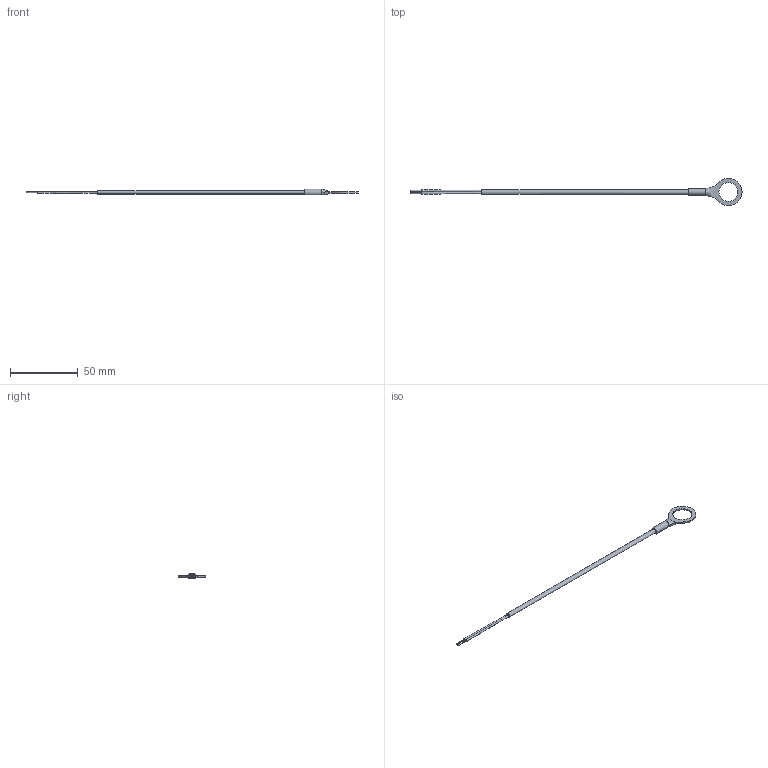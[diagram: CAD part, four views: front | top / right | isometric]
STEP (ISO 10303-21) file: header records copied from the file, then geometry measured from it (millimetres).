
FILE_DESCRIPTION(/* description */ (''),/* implementation_level */ '2;1');
FILE_NAME(/* name */ 'C:\Users\Justin\Documents\CAD Drawings\The Sensor Connection\3D\CHT\WS\CHT-WS-072-0014-KK-N.ipt.step',/* time_stamp */ '2018-12-27T10:55:11-05:00',/* author */ ('JN'),/* organization */ (''),/* preprocessor_version */ 'ST-DEVELOPER v17.2',/* originating_system */ 'Autodesk Inventor 2019',/* authorisation */ '');
FILE_SCHEMA (('AUTOMOTIVE_DESIGN { 1 0 10303 214 3 1 1 }'));
Length unit declared in the file: inch
Products named in the file (1): CHT-WS-072-0014-KK-N
Bounding box: 244.56 x 20.07 x 4.18 mm (x, y, z)
Volume: 1615.8 mm3; surface area: 2817.3 mm2
Topology: 4 solids, 4 shells, 29 faces, 60 edges, 40 vertices
Faces by surface type: plane 16, bspline 8, cylinder 5
Full cylindrical faces by diameter (mm): 0.762 x2, 13.97 x1
Entity records: 1045 total; most frequent: CARTESIAN_POINT 376, ORIENTED_EDGE 112, DIRECTION 112, EDGE_CURVE 56, AXIS2_PLACEMENT_3D 44, VERTEX_POINT 38, EDGE_LOOP 36, FACE_OUTER_BOUND 29
